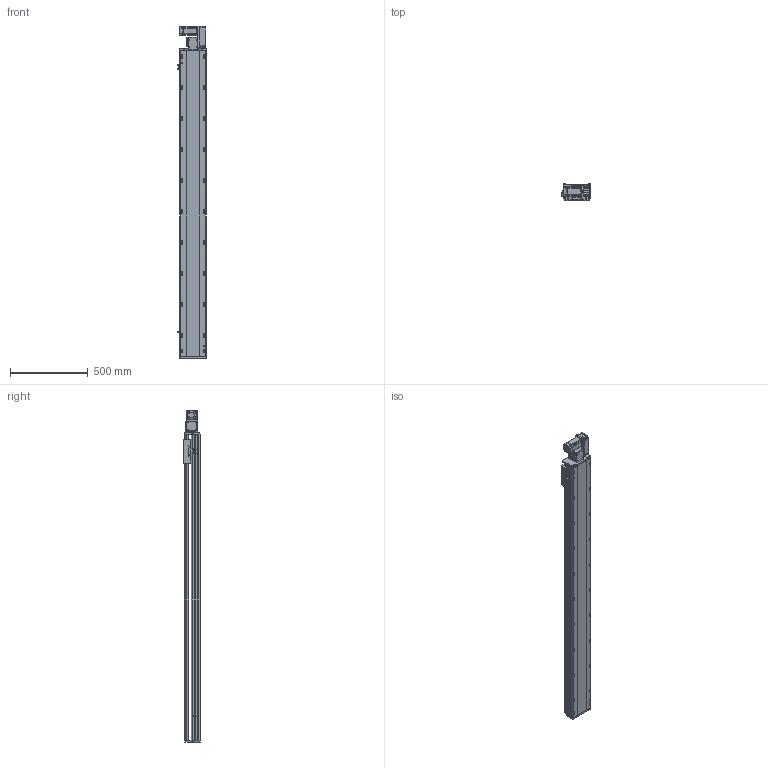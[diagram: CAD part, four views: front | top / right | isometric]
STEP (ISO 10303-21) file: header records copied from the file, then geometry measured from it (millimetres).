
FILE_DESCRIPTION (( 'STEP AP214' ), '1' );
FILE_NAME ('RTB17S-XX-1700-R-M40-C4.STEP', '2025-12-11T07:42:06', ( '' ), ( '' ), 'SwSTEP 2.0', 'SolidWorks 2018', '' );
FILE_SCHEMA (( 'AUTOMOTIVE_DESIGN' ));
Length unit declared in the file: millimetre
Products named in the file (14): RTB17S-L-001耜醱啣^RTB17S-XX-XX-R-M40-C4; RTB17-R-011菁釱^RTB17S-XX-XX-R-M40-C4; RTH13-BL-012覜茼え俋离^RTB17S-XX-XX-R-M40-C4; RTB17S-L-004佪裝蹟譫蟀諉釱^RTB17S-XX-XX-R-M40-C4; RTB17S-XX-1700-R-M40-C4; RTB17S-L-014-T20--々湍釱^RTB17S-R-々湍釱蚾饜-400W_RTB17S-XX-XX-R-M40-C4; OMRON EE-SX672 传感器^RTB17S-XX-XX-R-M40-C4; 400W侜督萇儂^RTB17S-XX-XX-R-M40-C4; RTB17S-L-007奻裔^RTB17S-XX-XX-R-M40-C4; RTB14-L-005P--轴承塑胶压盖^RTB17S-R-皮带座装配-400W_RTB17S-XX-XX-R-M40-C4; RTB14-L-017P^RTB17S-R-々湍釱蚾饜-400W_RTB17S-XX-XX-R-M40-C4; RTB14-L-018P^RTB17S-R-々湍釱蚾饜-400W_RTB17S-XX-XX-R-M40-C4; RTB17S-R-々湍釱蚾饜-400W^RTB17S-XX-XX-R-M40-C4; RTB14-L-008-M20--萇儂啣^RTB17S-R-々湍釱蚾饜-400W_RTB17S-XX-XX-R-M40-C4
Assembly tree (16 placements, depth 3):
  RTB17S-XX-1700-R-M40-C4
    RTB17-R-011菁釱^RTB17S-XX-XX-R-M40-C4
    RTB17S-L-007奻裔^RTB17S-XX-XX-R-M40-C4
    OMRON EE-SX672 传感器^RTB17S-XX-XX-R-M40-C4  x3
    RTB17S-L-001耜醱啣^RTB17S-XX-XX-R-M40-C4
    400W侜督萇儂^RTB17S-XX-XX-R-M40-C4
    RTB17S-L-004佪裝蹟譫蟀諉釱^RTB17S-XX-XX-R-M40-C4
    RTH13-BL-012覜茼え俋离^RTB17S-XX-XX-R-M40-C4
    RTB17S-R-々湍釱蚾饜-400W^RTB17S-XX-XX-R-M40-C4
      RTB17S-L-014-T20--々湍釱^RTB17S-R-々湍釱蚾饜-400W_RTB17S-XX-XX-R-M40-C4
      RTB14-L-005P--轴承塑胶压盖^RTB17S-R-皮带座装配-400W_RTB17S-XX-XX-R-M40-C4
      RTB14-L-008-M20--萇儂啣^RTB17S-R-々湍釱蚾饜-400W_RTB17S-XX-XX-R-M40-C4
      RTB14-L-017P^RTB17S-R-々湍釱蚾饜-400W_RTB17S-XX-XX-R-M40-C4  x2
      RTB14-L-018P^RTB17S-R-々湍釱蚾饜-400W_RTB17S-XX-XX-R-M40-C4
Bounding box: 183.5 x 108 x 2141 mm (x, y, z)
Volume: 18080178.4 mm3; surface area: 2121468.1 mm2
Topology: 15 solids, 15 shells, 2269 faces, 6303 edges, 4113 vertices
Faces by surface type: plane 1076, cylinder 745, bspline 301, cone 139, torus 8
Entity records: 65705 total; most frequent: CARTESIAN_POINT 18508, ORIENTED_EDGE 9450, DIRECTION 8756, EDGE_CURVE 4725, VERTEX_POINT 3101, AXIS2_PLACEMENT_3D 3031, LINE 2694, VECTOR 2694
